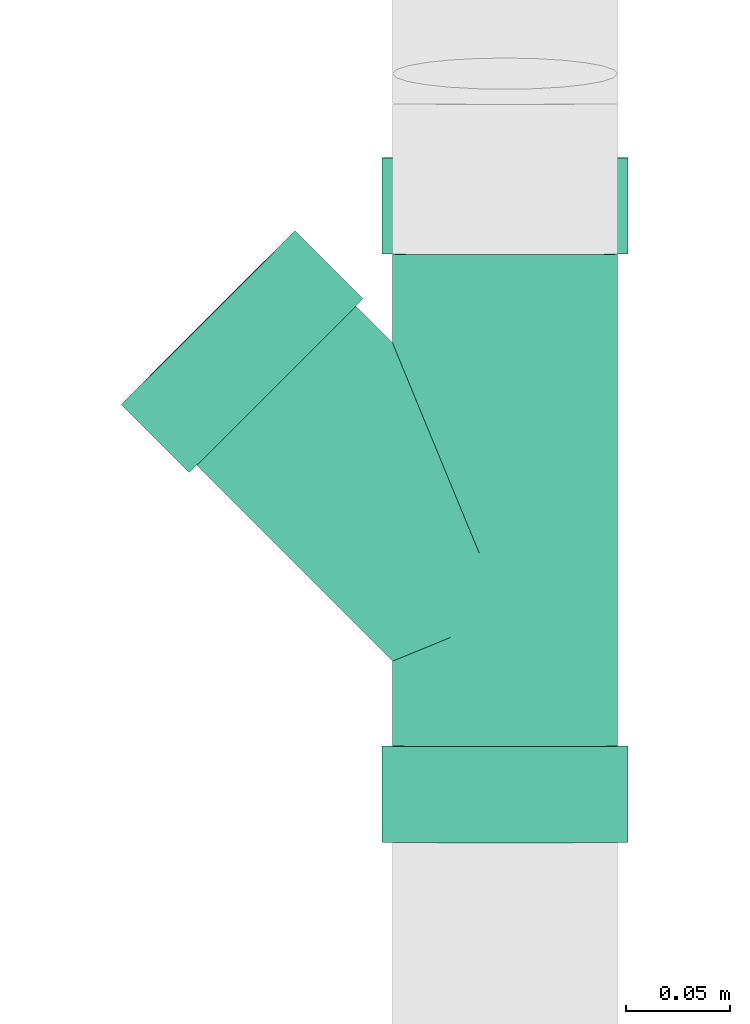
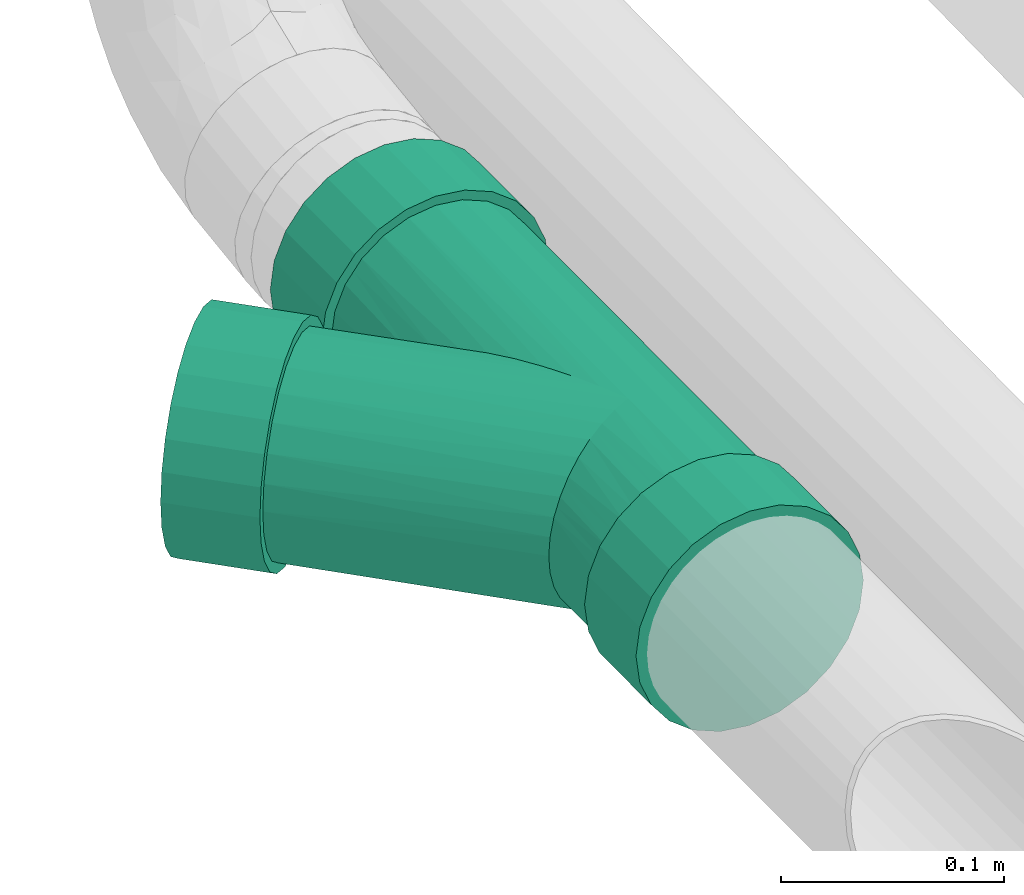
# One storey, part 69 of 78: 1 flow fitting.
"""IFC2X3 building model written with IfcOpenShell, lengths in millimetres."""

import ifcopenshell
import ifcopenshell.guid

model = None  # the IFC model being written
_history = None  # IfcOwnerHistory: only IFC2X3 demands one
_inside = {}  # id of a spatial element -> (the spatial element, [elements in it])
_under = {}  # id of a project, library or spatial element -> (it, [spatial elements below it])
_declared = {}  # id of a project -> (the project, [libraries it declares])
_typed = {}  # id of a type object -> (the type object, [elements of that type])
_made_of = {}  # id of a material, layer set ... -> (it, [elements and type objects made of it])


def new_model(schema):
    """Start an empty IFC model of exactly this schema.

    Asked for "IFC4X3", IfcOpenShell would pick the latest addendum, in which some entities
    have other attributes; the version numbers below select the first issue.
    IFC2X3 requires an IfcOwnerHistory on every rooted entity: one is made here for all.
    """
    global model, _history
    if schema == "IFC4X3":
        model = ifcopenshell.file(schema_version=(4, 3, 0, 0))
    else:
        model = ifcopenshell.file(schema=schema)
    _inside.clear()
    _under.clear()
    _declared.clear()
    _typed.clear()
    _made_of.clear()
    _history = None
    if model.schema == "IFC2X3":
        org = make("IfcOrganization", Name="unknown")
        user = make(
            "IfcPersonAndOrganization",
            ThePerson=make("IfcPerson", FamilyName="unknown"),
            TheOrganization=org,
        )
        app = make(
            "IfcApplication",
            ApplicationDeveloper=org,
            Version="unknown",
            ApplicationFullName="unknown",
            ApplicationIdentifier="unknown",
        )
        _history = make(
            "IfcOwnerHistory",
            OwningUser=user,
            OwningApplication=app,
            ChangeAction="ADDED",
            CreationDate=0,
        )
    return model


def make(cls, **values):
    """One entity of the class cls with the attributes given. An attribute that is None is left unset."""
    return model.create_entity(
        cls, **{name: value for name, value in values.items() if value is not None}
    )


def entity(cls, *values):
    """Any entity or typed value of the class cls, its attributes in the order of the schema. None: left unset."""
    e = model.create_entity(cls)
    for i, value in enumerate(values):
        if value is not None:
            e[i] = value
    return e


def rooted(cls, **values):
    """An entity with a GlobalId (a new one), such as an element, a storey or a relation."""
    return make(cls, GlobalId=ifcopenshell.guid.new(), OwnerHistory=_history, **values)


def si_unit(unit_type, name, prefix=None):
    """IfcSIUnit, for example si_unit("LENGTHUNIT", "METRE", prefix="MILLI")."""
    return make("IfcSIUnit", UnitType=unit_type, Prefix=prefix, Name=name)


def converted_unit(unit_type, name, factor, base, dimensions=None, offset=None):
    """IfcConversionBasedUnit, such as the inch: factor (a typed value) times the base unit."""
    return make(
        "IfcConversionBasedUnit"
        if offset is None
        else "IfcConversionBasedUnitWithOffset",
        ConversionOffset=offset,
        Dimensions=None
        if dimensions is None
        else entity("IfcDimensionalExponents", *dimensions),
        UnitType=unit_type,
        Name=name,
        ConversionFactor=make(
            "IfcMeasureWithUnit", ValueComponent=factor, UnitComponent=base
        ),
    )


def derived_unit(unit_type, elements):
    """IfcDerivedUnit: a product of units, each with its exponent."""
    return make(
        "IfcDerivedUnit",
        Elements=[
            make("IfcDerivedUnitElement", Unit=unit, Exponent=power)
            for unit, power in elements
        ],
        UnitType=unit_type,
    )


def assignment(units):
    """IfcUnitAssignment: the units of a project."""
    return None if units is None else make("IfcUnitAssignment", Units=units)


def point(xyz):
    """IfcCartesianPoint."""
    return None if xyz is None else make("IfcCartesianPoint", Coordinates=xyz)


def direction(xyz):
    """IfcDirection."""
    return None if xyz is None else make("IfcDirection", DirectionRatios=xyz)


def frame(location, z_axis=None, x_axis=None):
    """IfcAxis2Placement3D, a coordinate frame: its origin and axes. An axis left out is left unset."""
    return make(
        "IfcAxis2Placement3D",
        Location=point(location),
        Axis=direction(z_axis),
        RefDirection=direction(x_axis),
    )


def origin_with_axes():
    """The frame at (0, 0, 0) with the z axis (0, 0, 1) and the x axis (1, 0, 0) written out."""
    return frame((0.0, 0.0, 0.0), z_axis=(0.0, 0.0, 1.0), x_axis=(1.0, 0.0, 0.0))


def place(relative_to, where):
    """IfcLocalPlacement: puts the frame where relative to a parent placement (None: the world)."""
    return make(
        "IfcLocalPlacement", PlacementRelTo=relative_to, RelativePlacement=where
    )


def context(
    kind, dimensions, precision=None, world=None, true_north=None, identifier=None
):
    """IfcGeometricRepresentationContext, for example the 3D "Model" context."""
    return make(
        "IfcGeometricRepresentationContext",
        ContextIdentifier=identifier,
        ContextType=kind,
        CoordinateSpaceDimension=dimensions,
        Precision=precision,
        WorldCoordinateSystem=world,
        TrueNorth=true_north,
    )


def subcontext(parent, identifier, kind, view, scale=None):
    """IfcGeometricRepresentationSubContext, for example "Body" below "Model"."""
    return make(
        "IfcGeometricRepresentationSubContext",
        ContextIdentifier=identifier,
        ContextType=kind,
        ParentContext=parent,
        TargetScale=scale,
        TargetView=view,
    )


def project(units=None, contexts=None):
    """IfcProject with its units and contexts."""
    return rooted(
        "IfcProject",
        Name="project",
        RepresentationContexts=contexts,
        UnitsInContext=assignment(units),
    )


def spatial(cls, under=None, at=None, **own):
    """A site, building, storey or space (cls), placed at a placement, below another one or the project."""
    s = rooted(cls, ObjectPlacement=at, **own)
    if under is not None:
        _under.setdefault(under.id(), (under, []))[1].append(s)
    return s


def faces_of(points, faces, orient=None, outer=None):
    """IfcFace entities. A face is a list of loops; a loop is a list of indices into points, from 0.

    orient and outer hold one flag for each loop. By default every Orientation is true, the
    first loop of a face is its IfcFaceOuterBound and the others are IfcFaceBound.
    """
    made = []
    for i, loops in enumerate(faces):
        bounds = []
        for j, loop in enumerate(loops):
            is_outer = j == 0 if outer is None else outer[i][j]
            bounds.append(
                make(
                    "IfcFaceOuterBound" if is_outer else "IfcFaceBound",
                    Bound=make("IfcPolyLoop", Polygon=[points[k] for k in loop]),
                    Orientation=True if orient is None else orient[i][j],
                )
            )
        made.append(make("IfcFace", Bounds=bounds))
    return made


def open_shell(faces, orient=None, outer=None):
    """The faces of one IfcOpenShell. surface_model builds it on its shared points."""
    return ("IfcOpenShell", faces, orient, outer)


def surface_model(cls, points, shells):
    """IfcFaceBasedSurfaceModel or IfcShellBasedSurfaceModel (cls): surfaces that need not close."""
    shared = [point(p) for p in points]
    made = [make(c, CfsFaces=faces_of(shared, fs, o, b)) for c, fs, o, b in shells]
    if cls == "IfcFaceBasedSurfaceModel":
        return make(cls, FbsmFaces=made)
    return make(cls, SbsmBoundary=made)


def shape(context_of_items, identifier, shape_type, items):
    """IfcShapeRepresentation: the items that make up one representation, for example the "Body"."""
    return make(
        "IfcShapeRepresentation",
        ContextOfItems=context_of_items,
        RepresentationIdentifier=identifier,
        RepresentationType=shape_type,
        Items=items,
    )


def source(mapping_origin, context_of_items, identifier, shape_type, items):
    """IfcRepresentationMap: a shape defined once, which mapped items show again and again."""
    return make(
        "IfcRepresentationMap",
        MappingOrigin=mapping_origin,
        MappedRepresentation=shape(context_of_items, identifier, shape_type, items),
    )


def transform(
    local_origin,
    x_axis=None,
    y_axis=None,
    z_axis=None,
    scale=None,
    scale2=None,
    scale3=None,
    uniform=True,
):
    """IfcCartesianTransformationOperator3D, or its non-uniform kind. x_axis, y_axis, z_axis: its Axis1, 2, 3."""
    if uniform:
        return make(
            "IfcCartesianTransformationOperator3D",
            Axis1=direction(x_axis),
            Axis2=direction(y_axis),
            LocalOrigin=point(local_origin),
            Scale=scale,
            Axis3=direction(z_axis),
        )
    return make(
        "IfcCartesianTransformationOperator3DnonUniform",
        Axis1=direction(x_axis),
        Axis2=direction(y_axis),
        LocalOrigin=point(local_origin),
        Scale=scale,
        Axis3=direction(z_axis),
        Scale2=scale2,
        Scale3=scale3,
    )


def mapped(mapping_source, mapping_target):
    """IfcMappedItem: shows the shape of a source again, moved by a transform."""
    return make(
        "IfcMappedItem", MappingSource=mapping_source, MappingTarget=mapping_target
    )


def made_of(thing, what):
    """Note that an element or type object is made of a material, layer set ...; save() writes the relation."""
    if what is not None:
        _made_of.setdefault(what.id(), (what, []))[1].append(thing)
    return thing


def type_object(cls, material=None, **own):
    """A type object (cls), such as IfcWallType, which elements share."""
    return made_of(rooted(cls, **own), material)


def element(
    cls,
    number,
    at=None,
    inside=None,
    cuts=None,
    type_object=None,
    material=None,
    context=None,
    identifier="Body",
    shape_type=None,
    held_by="IfcProductDefinitionShape",
    body=None,
    shapes=None,
    **own,
):
    """One element of the class cls, such as IfcWall. Its Tag is "e" and its number.

    at: its placement. inside: the storey or other place that contains it. cuts: it is an
    opening in that element (IfcRelVoidsElement). A single representation is given by context,
    identifier, shape_type and body (its items); several are given by shapes. held_by: the class
    of the entity that holds the representations. save() writes the other relations.
    """
    e = rooted(cls, Tag="e%d" % number, ObjectPlacement=at, **own)
    if body is not None:
        shapes = [shape(context, identifier, shape_type, body)]
    if shapes is not None:
        e.Representation = make(held_by, Representations=shapes)
    if inside is not None:
        _inside.setdefault(inside.id(), (inside, []))[1].append(e)
    if cuts is not None:
        rooted(
            "IfcRelVoidsElement", RelatingBuildingElement=cuts, RelatedOpeningElement=e
        )
    if type_object is not None:
        _typed.setdefault(type_object.id(), (type_object, []))[1].append(e)
    return made_of(e, material)


def aggregate(whole, parts):
    """IfcRelAggregates: a whole, such as a stair, and the parts it consists of."""
    return rooted("IfcRelAggregates", RelatingObject=whole, RelatedObjects=parts)


def save(model, path):
    """Write the relations noted so far, then the file.

    IfcRelAggregates (storeys below a building ...), IfcRelContainedInSpatialStructure (elements
    in a storey), IfcRelDefinesByType, IfcRelAssociatesMaterial and IfcRelDeclares: one each for
    every whole, place, type object, material and project.
    """
    for whole, parts in _under.values():
        aggregate(whole, parts)
    for where, things in _inside.values():
        rooted(
            "IfcRelContainedInSpatialStructure",
            RelatedElements=things,
            RelatingStructure=where,
        )
    for kind, things in _typed.values():
        rooted("IfcRelDefinesByType", RelatedObjects=things, RelatingType=kind)
    for what, things in _made_of.values():
        rooted("IfcRelAssociatesMaterial", RelatedObjects=things, RelatingMaterial=what)
    for by, libraries in _declared.values():
        rooted("IfcRelDeclares", RelatingContext=by, RelatedDefinitions=libraries)
    model.write(path)


model = new_model("IFC2X3")

# Units and contexts
model_context = context("Model", 3, precision=0.01, world=frame((0.0, 4.29681676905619e-09, 0.0)), true_north=direction((4.01073788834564e-13, 1.0)))
plan_context = context("Plan", 3, precision=0.01, world=frame((0.0, 4.29681676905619e-09, 0.0)), true_north=direction((4.01073788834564e-13, 1.0)))
body_context = subcontext(model_context, "Body", "Model", "MODEL_VIEW")
ifc_project = project(units=[converted_unit("PLANEANGLEUNIT", "DEGREE", entity("IfcPositiveLengthMeasure", 0.0174532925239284), si_unit("PLANEANGLEUNIT", "RADIAN"), dimensions=[0, 0, 0, 0, 0, 0, 0]), si_unit("AREAUNIT", "SQUARE_METRE"), si_unit("LENGTHUNIT", "METRE", prefix="MILLI"), si_unit("MASSUNIT", "GRAM", prefix="KILO"), si_unit("POWERUNIT", "WATT"), si_unit("PRESSUREUNIT", "PASCAL"), si_unit("FORCEUNIT", "NEWTON", prefix="KILO"), si_unit("ELECTRICVOLTAGEUNIT", "VOLT"), si_unit("ELECTRICCURRENTUNIT", "AMPERE"), si_unit("THERMODYNAMICTEMPERATUREUNIT", "DEGREE_CELSIUS"), si_unit("TIMEUNIT", "SECOND"), si_unit("VOLUMEUNIT", "CUBIC_METRE"), derived_unit("LINEARVELOCITYUNIT", [(si_unit("LENGTHUNIT", "METRE"), 1), (si_unit("TIMEUNIT", "SECOND"), -1)]), derived_unit("VOLUMETRICFLOWRATEUNIT", [(si_unit("VOLUMEUNIT", "CUBIC_METRE"), 1), (si_unit("TIMEUNIT", "SECOND"), -1)]), derived_unit("THERMALTRANSMITTANCEUNIT", [(si_unit("POWERUNIT", "WATT"), 1), (si_unit("THERMODYNAMICTEMPERATUREUNIT", "KELVIN"), -1), (si_unit("AREAUNIT", "SQUARE_METRE"), -1)]), derived_unit("SOUNDPRESSUREUNIT", [(si_unit("PRESSUREUNIT", "PASCAL"), 1)])], contexts=[model_context, plan_context])

# Site, building, storey
site_placement = place(None, frame((0.0, -4.29681676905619e-09, 0.0), z_axis=(0.0, 0.0, 1.0), x_axis=(1.0, 0.0, 0.0)))
site = spatial("IfcSite", under=ifc_project, at=site_placement, Name="ENGM", CompositionType="ELEMENT")
building_placement = place(site_placement, frame((0.0, 4.29681676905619e-09, 0.0), z_axis=(0.0, 0.0, 1.0), x_axis=(1.0, 0.0, 0.0)))
building = spatial("IfcBuilding", under=site, at=building_placement, Name="TH", CompositionType="ELEMENT")
storey_placement = place(building_placement, frame((0.0, 0.0, 205200.0), z_axis=(0.0, 0.0, 1.0), x_axis=(1.0, 0.0, 0.0)))
storey = spatial("IfcBuildingStorey", under=building, at=storey_placement, Name="Nivå D + 1,2 m", CompositionType="ELEMENT", Elevation=205200.0)

# Flow fitting
pipe_fitting_type = type_object("IfcPipeFittingType", Name="magi_sewer_tee_wye_NOR", PredefinedType="JUNCTION")
shared_shape = source(origin_with_axes(), body_context, "Body", "SurfaceModel", [
    surface_model("IfcShellBasedSurfaceModel", [(219.2473, 29.5, -51.0955), (219.2473, 0.0, -59.0), (219.2473, 15.27032, -56.98962), (219.2473, 56.98962, -15.27032), (219.2473, 41.7193, -41.7193), (219.2473, 51.0955, -29.5), (219.2473, 59.0, 0.0), (219.2473, -15.27032, -56.98962), (219.2473, -56.98962, -15.27032), (219.2473, -29.5, -51.0955), (219.2473, -41.7193, -41.7193), (219.2473, -51.0955, -29.5), (219.2473, 56.98962, 15.27032), (219.2473, 51.0955, 29.5), (219.2473, 41.7193, 41.7193), (219.2473, 29.5, 51.0955), (219.2473, 15.27032, 56.98962), (219.2473, 0.0, 59.0), (219.2473, -41.7193, 41.7193), (219.2473, -56.98962, 15.27032), (219.2473, -59.0, 0.0), (219.2473, -51.0955, 29.5), (219.2473, -15.27032, 56.98962), (219.2473, -29.5, 51.0955), (173.04729, 0.0, 59.0), (173.04729, 15.27032, 56.98962), (173.04729, 29.5, 51.0955), (173.04729, 56.98962, 15.27032), (173.04729, 41.7193, 41.7193), (173.04729, 51.0955, 29.5), (173.04729, -15.27032, 56.98962), (173.04729, -41.7193, 41.7193), (173.04729, -29.5, 51.0955), (173.04729, -56.98962, -15.27032), (173.04729, -56.98962, 15.27032), (173.04729, -59.0, 0.0), (173.04729, -51.0955, 29.5), (173.04729, 29.5, -51.0955), (173.04729, 59.0, 0.0), (173.04729, 56.98962, -15.27032), (173.04729, 41.7193, -41.7193), (173.04729, 51.0955, -29.5), (173.04729, 15.27032, -56.98962), (173.04729, -41.7193, -41.7193), (173.04729, -51.0955, -29.5), (173.04729, -29.5, -51.0955), (173.04729, -15.27032, -56.98962), (173.04729, 0.0, -59.0), (109.86392, -109.86164, -59.0), (99.06628, -120.65951, -56.98962), (120.66156, -99.06378, -56.98962), (130.72336, -89.00178, -51.0955), (150.16126, -69.56348, -15.27032), (145.99352, -73.7313, -29.5), (139.36361, -80.36135, -41.7193), (145.99352, -73.7313, 29.5), (80.36423, -139.36195, -41.7193), (73.73433, -145.992, -29.5), (89.00449, -130.72152, -51.0955), (68.14505, -151.58138, 0.0), (69.56659, -150.15981, -15.27032), (130.72336, -89.00178, 51.0955), (150.16126, -69.56348, 15.27032), (120.66156, -99.06378, 56.98962), (139.36361, -80.36135, 41.7193), (109.86392, -109.86164, 59.0), (73.73433, -145.992, 29.5), (80.36423, -139.36195, 41.7193), (69.56659, -150.15981, 15.27032), (99.06628, -120.65951, 56.98962), (89.00449, -130.72152, 51.0955), (151.58279, -68.14192, 0.0), (142.5326, -142.52964, -59.0), (153.33023, -131.73178, -56.98962), (163.39203, -121.66978, -51.0955), (121.67316, -163.38952, -51.0955), (178.66219, -106.39929, -29.5), (182.82992, -102.23148, -15.27032), (172.03229, -113.02934, -41.7193), (102.23527, -182.82781, -15.27032), (113.0329, -172.02994, -41.7193), (131.73496, -153.32751, -56.98962), (106.403, -178.65999, -29.5), (100.81372, -184.24938, 0.0), (184.25147, -100.80991, 0.0), (182.82992, -102.23148, 15.27032), (178.66219, -106.39929, 29.5), (163.39203, -121.66978, 51.0955), (121.67316, -163.38952, 51.0955), (172.03229, -113.02934, 41.7193), (142.5326, -142.52964, 59.0), (153.33023, -131.73178, 56.98962), (106.403, -178.65999, 29.5), (102.23527, -182.82781, 15.27032), (113.0329, -172.02994, 41.7193), (131.73496, -153.32751, 56.98962), (-109.38337, -29.5, -51.0955), (-109.38337, 0.0, -59.0), (-109.38337, -15.27032, -56.98962), (-109.38337, -56.98962, -15.27032), (-109.38337, -41.7193, -41.7193), (-109.38337, -51.0955, -29.5), (-109.38337, -59.0, 0.0), (-109.38337, 15.27032, -56.98962), (-109.38337, 56.98962, -15.27032), (-109.38337, 29.5, -51.0955), (-109.38337, 41.7193, -41.7193), (-109.38337, 51.0955, -29.5), (-109.38337, -56.98962, 15.27032), (-109.38337, -51.0955, 29.5), (-109.38337, -41.7193, 41.7193), (-109.38337, -29.5, 51.0955), (-109.38337, -15.27032, 56.98962), (-109.38337, 0.0, 59.0), (-109.38337, 41.7193, 41.7193), (-109.38337, 56.98962, 15.27032), (-109.38337, 59.0, 0.0), (-109.38337, 51.0955, 29.5), (-109.38337, 15.27032, 56.98962), (-109.38337, 29.5, 51.0955), (-63.18337, 0.0, 59.0), (-63.18337, -15.27032, 56.98962), (-63.18337, -29.5, 51.0955), (-63.18337, -56.98962, 15.27032), (-63.18337, -41.7193, 41.7193), (-63.18337, -51.0955, 29.5), (-63.18337, 15.27032, 56.98962), (-63.18337, 41.7193, 41.7193), (-63.18337, 29.5, 51.0955), (-63.18337, 56.98962, -15.27032), (-63.18337, 56.98962, 15.27032), (-63.18337, 59.0, 0.0), (-63.18337, 51.0955, 29.5), (-63.18337, -29.5, -51.0955), (-63.18337, -59.0, 0.0), (-63.18337, -56.98962, -15.27032), (-63.18337, -41.7193, -41.7193), (-63.18337, -51.0955, -29.5), (-63.18337, -15.27032, -56.98962), (-63.18337, 41.7193, -41.7193), (-63.18337, 51.0955, -29.5), (-63.18337, 29.5, -51.0955), (-63.18337, 15.27032, -56.98962), (-63.18337, 0.0, -59.0), (173.04729, 13.97623, -52.15999), (173.04729, 27.0, -46.76537), (173.04729, 38.18377, -38.18377), (173.04729, 52.15999, 13.97623), (173.04729, 46.76537, -27.0), (173.04729, 52.15999, -13.97623), (173.04729, -52.15999, -13.97623), (173.04729, -52.15999, 13.97623), (173.04729, -13.97623, -52.15999), (173.04729, -38.18377, -38.18377), (173.04729, -27.0, -46.76537), (173.04729, 0.0, -54.0), (173.04729, -46.76537, -27.0), (173.04729, 54.0, 0.0), (173.04729, 46.76537, 27.0), (173.04729, 38.18377, 38.18377), (173.04729, 27.0, 46.76537), (173.04729, -38.18377, 38.18377), (173.04729, 13.97623, 52.15999), (173.04729, -13.97623, 52.15999), (173.04729, 0.0, 54.0), (173.04729, -46.76537, 27.0), (173.04729, -54.0, 0.0), (173.04729, -27.0, 46.76537), (-63.18337, 13.97623, 52.15999), (-63.18337, -38.18377, 38.18377), (-63.18337, 0.0, 54.0), (-63.18337, 38.18377, 38.18377), (-63.18337, 27.0, 46.76537), (-63.18337, 46.76537, 27.0), (-63.18337, 52.15999, 13.97623), (-63.18337, -13.97623, 52.15999), (-63.18337, -27.0, 46.76537), (-63.18337, -52.15999, 13.97623), (-63.18337, -46.76537, 27.0), (-63.18337, 13.97623, -52.15999), (-63.18337, -52.15999, -13.97623), (-63.18337, -54.0, 0.0), (-63.18337, 52.15999, -13.97623), (-63.18337, 46.76537, -27.0), (-63.18337, 38.18377, -38.18377), (-63.18337, 27.0, -46.76537), (-63.18337, -13.97623, -52.15999), (-63.18337, -38.18377, -38.18377), (-63.18337, -46.76537, -27.0), (-63.18337, -27.0, -46.76537), (-63.18337, 0.0, -54.0), (-63.18337, 54.0, 0.0), (-21.45594, -51.79998, -14.457), (-63.18337, -52.61999, -10.48217), (-63.18337, -53.08, -6.98811), (-22.18293, -53.55512, -4.88114), (-21.99866, -53.11024, -9.76229), (-63.18337, -20.48811, -49.46268), (-7.38581, -17.83119, -50.97106), (-9.11849, -22.01431, -49.09535), (-19.1672, -46.27439, -27.83309), (-20.04021, -48.38206, -23.4924), (-16.84289, -40.66292, -35.53206), (-63.18337, -42.47457, -32.59188), (-63.18337, -32.59188, -42.47457), (-10.85117, -26.19744, -47.21964), (127.83987, -52.95223, -7.44859), (173.04729, -53.08, -6.98811), (-18.00504, -43.46865, -31.68258), (-15.43995, -37.27588, -38.78713), (-63.18337, -48.11403, -23.74406), (-14.03701, -33.88884, -42.0422), (-20.91322, -50.48972, -19.1517), (-63.18337, -49.46268, -20.48811), (-3.73774, -9.02384, -53.24068), (-63.18337, -6.98811, -53.08), (125.31031, -51.90447, -14.89719), (114.47308, -47.41561, -25.84105), (130.36944, -54.0, 0.0), (101.58633, -42.07782, -33.8446), (173.04729, -42.47457, -32.59188), (73.59782, -30.48477, -44.57217), (59.10445, -24.48151, -48.13165), (87.82296, -36.37693, -39.90889), (0.0, 0.0, -54.0), (-22.36721, -54.0, 0.0), (29.67957, -12.2935, -52.58203), (14.8538, -6.15256, -53.64836), (44.44457, -18.40927, -50.76513), (-63.18337, -49.46268, 20.48811), (-20.91322, -50.48972, 19.1517), (-20.04021, -48.38206, 23.4924), (-63.18337, -6.98811, 53.08), (-3.73774, -9.02384, 53.24068), (0.0, 0.0, 54.0), (-7.38581, -17.83119, 50.97106), (-63.18337, -20.48811, 49.46268), (-10.85117, -26.19744, 47.21964), (-9.11849, -22.01431, 49.09535), (-22.18293, -53.55512, 4.88114), (-63.18337, -53.08, 6.98811), (29.67957, -12.2935, 52.58203), (59.10445, -24.48151, 48.13165), (-63.18337, -32.59188, 42.47457), (-14.03701, -33.88884, 42.0422), (-19.1672, -46.27439, 27.83309), (-18.00504, -43.46865, 31.68258), (-63.18337, -42.47457, 32.59188), (-16.84289, -40.66292, 35.53206), (87.82296, -36.37693, 39.90889), (101.14802, -41.89627, 32.87497), (-15.43995, -37.27588, 38.78713), (-63.18337, -48.11403, 23.74406), (173.04729, -42.47457, 32.59188), (-21.45594, -51.79998, 14.457), (-21.99866, -53.11024, 9.76229), (114.47308, -47.41561, 25.84105), (122.42126, -50.70781, 12.92053), (-63.18337, -52.61999, 10.48217), (146.74623, -72.97858, -13.97623), (109.86392, -109.86164, -54.0), (119.74651, -99.97886, -52.15999), (128.95561, -90.76957, -46.76537), (136.86365, -82.86137, -38.18377), (142.93169, -76.7932, -27.0), (99.98134, -119.74444, -52.15999), (90.77224, -128.95373, -46.76537), (72.98162, -146.74471, -13.97623), (82.8642, -136.86193, -38.18377), (76.79616, -142.9301, -27.0), (71.68055, -148.04581, 0.0), (146.74623, -72.97858, 13.97623), (128.95561, -90.76957, 46.76537), (142.93169, -76.7932, 27.0), (119.74651, -99.97886, 52.15999), (136.86365, -82.86137, 38.18377), (109.86392, -109.86164, 54.0), (76.79616, -142.9301, 27.0), (72.98162, -146.74471, 13.97623), (82.8642, -136.86193, 38.18377), (99.98134, -119.74444, 52.15999), (90.77224, -128.95373, 46.76537), (148.0473, -71.67749, 0.0), (147.39676, -72.32803, -6.98811), (139.89767, -79.82728, -32.59188)], [open_shell([[[0, 1, 2]], [[3, 0, 4]], [[1, 0, 3]], [[3, 4, 5]], [[1, 3, 6]], [[7, 8, 9]], [[7, 1, 6]], [[10, 8, 11]], [[8, 10, 9]], [[6, 8, 7]], [[6, 12, 8]], [[12, 13, 14]], [[12, 14, 15]], [[15, 16, 17]], [[15, 17, 12]], [[17, 18, 8]], [[8, 19, 20]], [[8, 21, 19]], [[18, 22, 23]], [[8, 18, 21]], [[17, 22, 18]], [[8, 12, 17]], [[24, 25, 26]], [[24, 26, 27]], [[28, 29, 27]], [[28, 27, 26]], [[24, 27, 30]], [[30, 31, 32]], [[31, 30, 33]], [[34, 33, 35]], [[36, 33, 34]], [[36, 31, 33]], [[33, 30, 27]], [[37, 38, 39]], [[40, 39, 41]], [[38, 37, 33]], [[37, 39, 40]], [[33, 37, 42]], [[33, 43, 44]], [[43, 33, 45]], [[33, 46, 45]], [[46, 33, 47]], [[33, 42, 47]], [[38, 33, 27]], [[33, 8, 35]], [[44, 11, 33]], [[9, 43, 45]], [[44, 43, 10]], [[7, 45, 46]], [[33, 11, 8]], [[8, 20, 35]], [[7, 9, 45]], [[10, 43, 9]], [[10, 11, 44]], [[1, 7, 46]], [[46, 47, 1]], [[2, 42, 37]], [[40, 0, 37]], [[5, 41, 39]], [[40, 41, 4]], [[3, 39, 38]], [[42, 2, 47]], [[37, 0, 2]], [[47, 2, 1]], [[40, 4, 0]], [[41, 5, 4]], [[3, 5, 39]], [[38, 6, 3]], [[27, 12, 38]], [[29, 13, 27]], [[15, 28, 26]], [[29, 28, 14]], [[16, 26, 25]], [[27, 13, 12]], [[12, 6, 38]], [[15, 26, 16]], [[14, 28, 15]], [[14, 13, 29]], [[16, 24, 17]], [[16, 25, 24]], [[22, 30, 32]], [[31, 23, 32]], [[21, 36, 34]], [[31, 36, 18]], [[19, 34, 35]], [[30, 22, 24]], [[32, 23, 22]], [[24, 22, 17]], [[31, 18, 23]], [[36, 21, 18]], [[19, 21, 34]], [[35, 20, 19]], [[48, 49, 50]], [[51, 50, 52]], [[52, 53, 54]], [[51, 52, 54]], [[49, 55, 50]], [[56, 57, 58]], [[49, 58, 59]], [[57, 60, 58]], [[59, 58, 60]], [[61, 49, 59]], [[62, 52, 50]], [[62, 50, 55]], [[61, 55, 49]], [[61, 59, 63]], [[64, 55, 61]], [[59, 65, 63]], [[66, 67, 68]], [[68, 67, 59]], [[69, 65, 70]], [[67, 70, 65]], [[59, 67, 65]], [[71, 52, 62]], [[72, 73, 74]], [[75, 72, 74]], [[76, 77, 74]], [[76, 74, 78]], [[79, 74, 77]], [[75, 79, 80]], [[75, 81, 72]], [[80, 79, 82]], [[74, 79, 75]], [[77, 83, 79]], [[77, 84, 83]], [[84, 85, 86]], [[84, 86, 87]], [[87, 88, 83]], [[87, 86, 89]], [[90, 87, 91]], [[83, 92, 93]], [[94, 92, 83]], [[88, 90, 95]], [[94, 83, 88]], [[90, 88, 87]], [[84, 87, 83]], [[93, 59, 83]], [[92, 68, 93]], [[67, 94, 88]], [[92, 94, 66]], [[70, 88, 95]], [[92, 66, 68]], [[68, 59, 93]], [[69, 90, 65]], [[69, 70, 95]], [[67, 88, 70]], [[67, 66, 94]], [[90, 69, 95]], [[61, 91, 87]], [[89, 64, 87]], [[62, 86, 85]], [[89, 86, 55]], [[71, 85, 84]], [[91, 63, 65]], [[91, 61, 63]], [[87, 64, 61]], [[89, 55, 64]], [[62, 55, 86]], [[85, 71, 62]], [[91, 65, 90]], [[77, 71, 84]], [[76, 52, 77]], [[54, 78, 74]], [[76, 78, 53]], [[51, 74, 73]], [[76, 53, 52]], [[52, 71, 77]], [[50, 72, 48]], [[50, 51, 73]], [[54, 74, 51]], [[54, 53, 78]], [[72, 50, 73]], [[58, 81, 75]], [[80, 56, 75]], [[60, 82, 79]], [[80, 82, 57]], [[59, 79, 83]], [[48, 81, 49]], [[49, 81, 58]], [[75, 56, 58]], [[80, 57, 56]], [[60, 57, 82]], [[59, 60, 79]], [[81, 48, 72]], [[96, 97, 98]], [[99, 96, 100]], [[97, 96, 99]], [[99, 100, 101]], [[97, 99, 102]], [[103, 104, 105]], [[103, 97, 102]], [[106, 104, 107]], [[104, 106, 105]], [[102, 104, 103]], [[102, 108, 104]], [[108, 109, 110]], [[108, 110, 111]], [[111, 112, 113]], [[111, 113, 108]], [[113, 114, 104]], [[104, 115, 116]], [[104, 117, 115]], [[114, 118, 119]], [[104, 114, 117]], [[113, 118, 114]], [[104, 108, 113]], [[120, 121, 122]], [[120, 122, 123]], [[124, 125, 123]], [[124, 123, 122]], [[120, 123, 126]], [[126, 127, 128]], [[127, 126, 129]], [[130, 129, 131]], [[132, 129, 130]], [[132, 127, 129]], [[129, 126, 123]], [[133, 134, 135]], [[136, 135, 137]], [[134, 133, 129]], [[133, 135, 136]], [[129, 133, 138]], [[129, 139, 140]], [[139, 129, 141]], [[129, 142, 141]], [[142, 129, 143]], [[129, 138, 143]], [[134, 129, 123]], [[129, 104, 131]], [[140, 107, 129]], [[105, 139, 141]], [[140, 139, 106]], [[103, 141, 142]], [[129, 107, 104]], [[104, 116, 131]], [[103, 105, 141]], [[106, 139, 105]], [[106, 107, 140]], [[97, 103, 142]], [[142, 143, 97]], [[98, 138, 133]], [[136, 96, 133]], [[101, 137, 135]], [[136, 137, 100]], [[99, 135, 134]], [[138, 98, 143]], [[133, 96, 98]], [[143, 98, 97]], [[136, 100, 96]], [[137, 101, 100]], [[99, 101, 135]], [[134, 102, 99]], [[123, 108, 134]], [[125, 109, 123]], [[111, 124, 122]], [[125, 124, 110]], [[112, 122, 121]], [[123, 109, 108]], [[108, 102, 134]], [[111, 122, 112]], [[110, 124, 111]], [[110, 109, 125]], [[112, 120, 113]], [[112, 121, 120]], [[118, 126, 128]], [[127, 119, 128]], [[117, 132, 130]], [[127, 132, 114]], [[115, 130, 131]], [[126, 118, 120]], [[128, 119, 118]], [[120, 118, 113]], [[127, 114, 119]], [[132, 117, 114]], [[115, 117, 130]], [[131, 116, 115]], [[144, 145, 146]], [[147, 144, 146]], [[147, 148, 149]], [[147, 146, 148]], [[150, 144, 151]], [[152, 153, 154]], [[152, 155, 144]], [[153, 150, 156]], [[150, 153, 152]], [[144, 150, 152]], [[157, 147, 149]], [[147, 158, 159]], [[147, 159, 160]], [[161, 160, 162]], [[160, 161, 147]], [[163, 162, 164]], [[151, 161, 165]], [[166, 150, 151]], [[161, 163, 167]], [[151, 144, 161]], [[163, 161, 162]], [[144, 147, 161]], [[168, 169, 170]], [[171, 168, 172]], [[171, 173, 174]], [[168, 171, 169]], [[174, 169, 171]], [[175, 169, 176]], [[175, 170, 169]], [[169, 177, 178]], [[169, 179, 177]], [[177, 180, 181]], [[179, 169, 174]], [[182, 183, 174]], [[184, 174, 183]], [[184, 185, 179]], [[179, 174, 184]], [[179, 186, 177]], [[180, 187, 188]], [[187, 180, 186]], [[187, 186, 189]], [[177, 186, 180]], [[179, 190, 186]], [[182, 174, 191]], [[180, 192, 193]], [[181, 194, 195]], [[196, 193, 192]], [[197, 198, 199]], [[200, 201, 188]], [[202, 203, 187]], [[204, 189, 205]], [[206, 150, 207]], [[188, 203, 208]], [[209, 202, 187]], [[188, 201, 210]], [[205, 211, 204]], [[201, 212, 213]], [[214, 186, 215]], [[203, 202, 208]], [[201, 213, 210]], [[216, 217, 156]], [[206, 216, 150]], [[207, 218, 206]], [[150, 216, 156]], [[219, 220, 217]], [[189, 199, 205]], [[196, 194, 193]], [[154, 221, 222]], [[223, 221, 154]], [[223, 153, 219]], [[153, 223, 154]], [[220, 156, 217]], [[188, 208, 200]], [[194, 196, 195]], [[211, 187, 204]], [[199, 189, 197]], [[190, 224, 215]], [[187, 211, 209]], [[214, 198, 186]], [[214, 215, 224]], [[219, 153, 220]], [[190, 179, 224]], [[212, 180, 213]], [[146, 184, 183]], [[148, 183, 182]], [[144, 179, 185]], [[145, 185, 184]], [[144, 224, 179]], [[149, 182, 191]], [[180, 212, 192]], [[181, 195, 225]], [[226, 227, 152]], [[228, 226, 152]], [[228, 152, 222]], [[152, 227, 155]], [[222, 152, 154]], [[224, 155, 227]], [[218, 207, 166]], [[144, 155, 224]], [[145, 144, 185]], [[145, 184, 146]], [[148, 146, 183]], [[149, 148, 182]], [[191, 157, 149]], [[198, 197, 186]], [[171, 158, 173]], [[229, 230, 231]], [[173, 158, 174]], [[147, 191, 174]], [[159, 171, 172]], [[232, 175, 233]], [[168, 170, 234]], [[233, 175, 235]], [[235, 175, 236]], [[172, 168, 160]], [[237, 238, 176]], [[232, 234, 170]], [[176, 238, 236]], [[159, 158, 171]], [[181, 239, 240]], [[160, 159, 172]], [[147, 174, 158]], [[157, 191, 147]], [[234, 232, 233]], [[234, 241, 164]], [[234, 164, 162]], [[164, 241, 163]], [[163, 241, 242]], [[162, 160, 168]], [[234, 162, 168]], [[237, 243, 244]], [[245, 246, 178]], [[243, 169, 244]], [[247, 246, 248]], [[161, 249, 250]], [[244, 169, 251]], [[231, 252, 229]], [[225, 239, 181]], [[250, 165, 253]], [[254, 230, 177]], [[255, 240, 239]], [[151, 256, 257]], [[231, 178, 252]], [[177, 230, 229]], [[178, 246, 247]], [[178, 231, 245]], [[237, 176, 243]], [[242, 249, 167]], [[255, 258, 240]], [[167, 249, 161]], [[242, 167, 163]], [[258, 254, 177]], [[248, 169, 247]], [[161, 250, 253]], [[165, 250, 256]], [[169, 248, 251]], [[254, 258, 255]], [[256, 151, 165]], [[257, 166, 151]], [[257, 218, 166]], [[235, 236, 238]], [[259, 260, 261]], [[259, 261, 262]], [[263, 264, 259]], [[263, 259, 262]], [[260, 259, 265]], [[266, 267, 268]], [[266, 265, 259]], [[268, 267, 269]], [[267, 266, 270]], [[259, 270, 266]], [[259, 271, 270]], [[271, 272, 270]], [[272, 271, 273]], [[274, 270, 272]], [[272, 273, 275]], [[270, 274, 276]], [[270, 277, 278]], [[279, 277, 270]], [[279, 280, 281]], [[270, 280, 279]], [[280, 270, 276]], [[271, 259, 282]], [[255, 225, 270]], [[278, 255, 270]], [[279, 281, 244]], [[248, 277, 279]], [[230, 278, 277]], [[235, 281, 280]], [[230, 255, 278]], [[245, 230, 277]], [[244, 248, 279]], [[235, 237, 281]], [[244, 281, 237]], [[245, 277, 248]], [[282, 257, 271]], [[280, 233, 235]], [[241, 276, 274]], [[272, 242, 274]], [[273, 271, 256]], [[256, 275, 273]], [[249, 272, 275]], [[257, 282, 218]], [[276, 234, 233]], [[276, 241, 234]], [[257, 256, 271]], [[241, 274, 242]], [[256, 249, 275]], [[272, 249, 242]], [[276, 233, 280]], [[259, 206, 283]], [[217, 284, 219]], [[282, 283, 218]], [[259, 264, 216]], [[263, 262, 223]], [[219, 284, 263]], [[216, 264, 217]], [[222, 262, 261]], [[217, 264, 284]], [[221, 223, 262]], [[219, 263, 223]], [[228, 222, 261]], [[260, 227, 226]], [[228, 261, 226]], [[221, 262, 222]], [[259, 216, 206]], [[226, 261, 260]], [[266, 198, 265]], [[265, 214, 260]], [[211, 266, 268]], [[196, 267, 270]], [[268, 269, 202]], [[267, 212, 269]], [[270, 225, 196]], [[205, 198, 266]], [[214, 224, 260]], [[198, 214, 265]], [[218, 283, 206]], [[196, 212, 267]], [[202, 211, 268]], [[200, 202, 269]], [[212, 200, 269]], [[205, 266, 211]], [[260, 224, 227]]])]),
])
flow_fitting_placement = place(storey_placement, frame((903466.63217, 479531.4191, 4198.9301), z_axis=(0.00207100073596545, 0.00499998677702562, -0.999985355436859), x_axis=(0.0, 0.999987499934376, 0.00499999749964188)))
element("IfcFlowFitting", 1, at=flow_fitting_placement, inside=storey, type_object=pipe_fitting_type, Name="magi_sewer_tee_wye_NOR", context=body_context, shape_type="MappedRepresentation", body=[
    mapped(shared_shape, transform((0.0, 0.0, 0.0), scale=1.0)),
])

save(model, "model.ifc")
